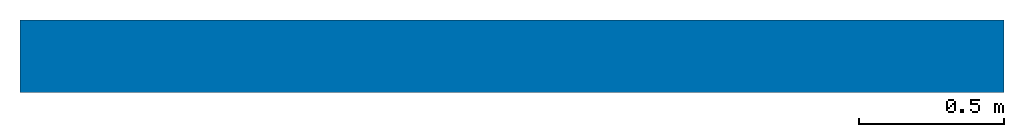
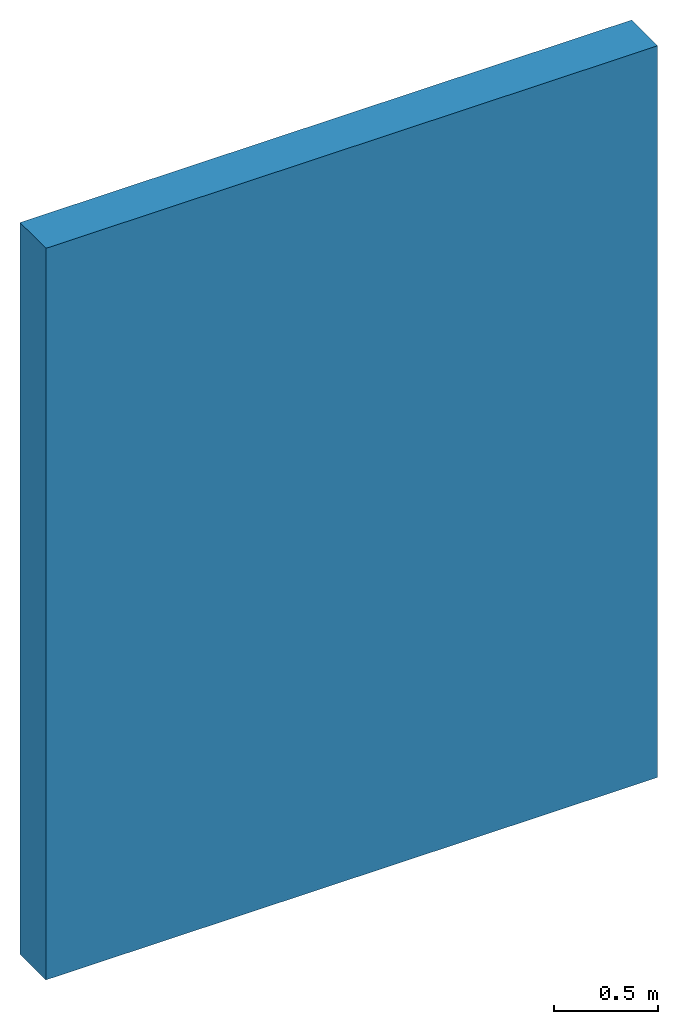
# One storey: 1 wall.
"""IFC2X3 building model written with IfcOpenShell, lengths in millimetres."""

from ifc_helpers import new_model, entity, si_unit, converted_unit, derived_unit, direction, frame, origin_with_axes, place, context, subcontext, project, spatial, faceted_brep, type_object, element, save


model = new_model("IFC2X3")

# Units and contexts
model_context = context("Model", 3, precision=0.01, world=frame((0.0, 4.29681676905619e-09, 0.0)), true_north=direction((4.01073788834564e-13, 1.0)))
plan_context = context("Plan", 3, precision=0.01, world=frame((0.0, 4.29681676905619e-09, 0.0)), true_north=direction((4.01073788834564e-13, 1.0)))
body_context = subcontext(model_context, "Body", "Model", "MODEL_VIEW")
ifc_project = project(units=[converted_unit("PLANEANGLEUNIT", "DEGREE", entity("IfcPositiveLengthMeasure", 0.0174532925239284), si_unit("PLANEANGLEUNIT", "RADIAN"), dimensions=[0, 0, 0, 0, 0, 0, 0]), si_unit("AREAUNIT", "SQUARE_METRE"), si_unit("LENGTHUNIT", "METRE", prefix="MILLI"), si_unit("MASSUNIT", "GRAM", prefix="KILO"), si_unit("POWERUNIT", "WATT"), si_unit("PRESSUREUNIT", "PASCAL"), si_unit("FORCEUNIT", "NEWTON", prefix="KILO"), si_unit("ELECTRICVOLTAGEUNIT", "VOLT"), si_unit("ELECTRICCURRENTUNIT", "AMPERE"), si_unit("THERMODYNAMICTEMPERATUREUNIT", "DEGREE_CELSIUS"), si_unit("TIMEUNIT", "SECOND"), si_unit("VOLUMEUNIT", "CUBIC_METRE"), derived_unit("LINEARVELOCITYUNIT", [(si_unit("LENGTHUNIT", "METRE"), 1), (si_unit("TIMEUNIT", "SECOND"), -1)]), derived_unit("VOLUMETRICFLOWRATEUNIT", [(si_unit("VOLUMEUNIT", "CUBIC_METRE"), 1), (si_unit("TIMEUNIT", "SECOND"), -1)]), derived_unit("THERMALTRANSMITTANCEUNIT", [(si_unit("POWERUNIT", "WATT"), 1), (si_unit("THERMODYNAMICTEMPERATUREUNIT", "KELVIN"), -1), (si_unit("AREAUNIT", "SQUARE_METRE"), -1)]), derived_unit("SOUNDPRESSUREUNIT", [(si_unit("PRESSUREUNIT", "PASCAL"), 1)])], contexts=[model_context, plan_context])

# Site, building, storey
site_placement = place(None, frame((0.0, -4.29681676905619e-09, 0.0), z_axis=(0.0, 0.0, 1.0), x_axis=(1.0, 0.0, 0.0)))
site = spatial("IfcSite", under=ifc_project, at=site_placement, Name="Gardermoen", CompositionType="ELEMENT")
building_placement = place(site_placement, frame((0.0, 4.29681676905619e-09, 0.0), z_axis=(0.0, 0.0, 1.0), x_axis=(1.0, 0.0, 0.0)))
building = spatial("IfcBuilding", under=site, at=building_placement, Name="TI", CompositionType="ELEMENT")
storey_placement = place(building_placement, origin_with_axes())
storey = spatial("IfcBuildingStorey", under=building, at=storey_placement, Name="B", CompositionType="ELEMENT", Elevation=0.0)

# Wall
wall_type = type_object("IfcWallType", Name="25100*250", PredefinedType="NOTDEFINED")
wall_placement = place(storey_placement, frame((607900.002773, 698975.0, 208050.01936), z_axis=(0.0, 0.0, 1.0), x_axis=(1.0, 0.0, 0.0)))
element("IfcWall", 1, at=wall_placement, inside=storey, type_object=wall_type, Name="PLASSTØPTVEGG", ObjectType="25100*250", context=body_context, shape_type="Brep", body=[
    faceted_brep([(3399.99822999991, 125.0, 6149.98063999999), (0.0, 125.0, 6149.98064), (0.0, 125.0, 1849.98063999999), (3399.99822999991, 125.0, 1849.98063999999), (3399.99822999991, -125.0, 1849.98063999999), (0.0, -125.0, 1849.98063999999), (0.0, -125.0, 6149.98063999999), (3399.99822999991, -125.0, 6149.98064)], [[[0, 1, 2, 3]], [[4, 5, 6, 7]], [[3, 4, 7, 0]], [[1, 6, 5, 2]], [[5, 4, 3, 2]], [[7, 6, 1, 0]]], orient=[[False], [False], [False], [False], [False], [False]]),
])

save(model, "model.ifc")
